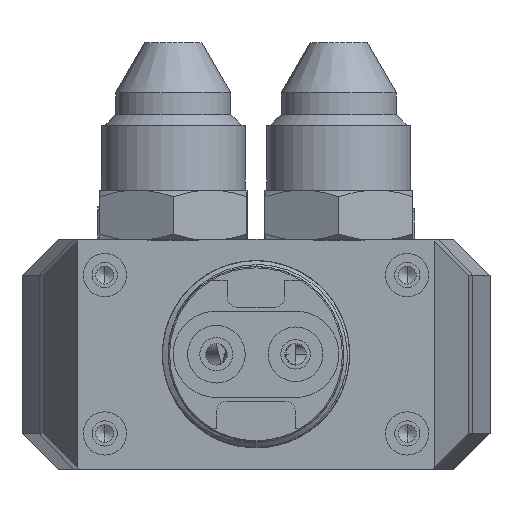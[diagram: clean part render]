
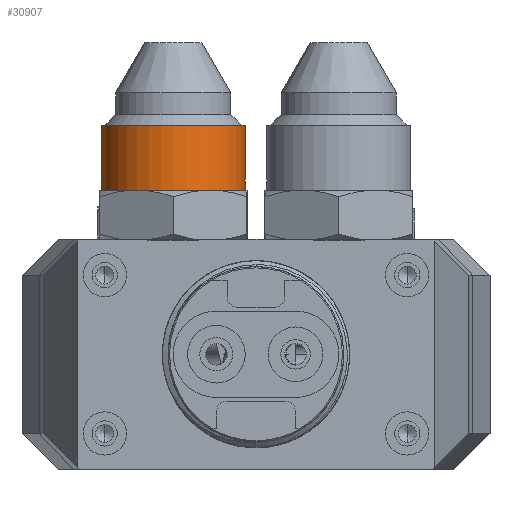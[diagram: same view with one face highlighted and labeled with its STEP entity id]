
A CAD part, front view. The second image highlights one B-rep face of the part: STEP entity #30907.
In plain terms, the highlighted cylindrical face has radius 10 mm (diameter 20 mm), a partial arc.
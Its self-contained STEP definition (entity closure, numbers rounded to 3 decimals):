
#1983 = VERTEX_POINT ( 'NONE', #12012 ) ;
#2076 = EDGE_LOOP ( 'NONE', ( #29214, #47855, #15343, #26965 ) ) ;
#3232 = CARTESIAN_POINT ( 'NONE',  ( -32.035, -112.24, 1009.903 ) ) ;
#3628 = VECTOR ( 'NONE', #8472, 1000. ) ;
#7811 = EDGE_CURVE ( 'NONE', #16940, #1983, #44289, .T. ) ;
#8218 = LINE ( 'NONE', #19573, #3628 ) ;
#8472 = DIRECTION ( 'NONE',  ( 0., 0., 1. ) ) ;
#10037 = EDGE_CURVE ( 'NONE', #42393, #22224, #8218, .T. ) ;
#12012 = CARTESIAN_POINT ( 'NONE',  ( -32.035, -112.24, 1018.903 ) ) ;
#13302 = CARTESIAN_POINT ( 'NONE',  ( -22.035, -112.24, 1018.903 ) ) ;
#13446 = AXIS2_PLACEMENT_3D ( 'NONE', #36542, #32840, #44184 ) ;
#13622 = FACE_OUTER_BOUND ( 'NONE', #2076, .T. ) ;
#15343 = ORIENTED_EDGE ( 'NONE', *, *, #10037, .T. ) ;
#16940 = VERTEX_POINT ( 'NONE', #3232 ) ;
#17686 = CIRCLE ( 'NONE', #38148, 10. ) ;
#19573 = CARTESIAN_POINT ( 'NONE',  ( -12.035, -112.24, 1041.175 ) ) ;
#22224 = VERTEX_POINT ( 'NONE', #38185 ) ;
#22857 = CIRCLE ( 'NONE', #31527, 10. ) ;
#22858 = CARTESIAN_POINT ( 'NONE',  ( -12.035, -112.24, 1009.903 ) ) ;
#25514 = DIRECTION ( 'NONE',  ( 0., 0., 1. ) ) ;
#25753 = EDGE_CURVE ( 'NONE', #16940, #42393, #17686, .T. ) ;
#26965 = ORIENTED_EDGE ( 'NONE', *, *, #39782, .T. ) ;
#29214 = ORIENTED_EDGE ( 'NONE', *, *, #7811, .F. ) ;
#30668 = DIRECTION ( 'NONE',  ( 0., 0., 1. ) ) ;
#30907 = ADVANCED_FACE ( 'NONE', ( #13622 ), #43468, .T. ) ;
#31527 = AXIS2_PLACEMENT_3D ( 'NONE', #13302, #32029, #47089 ) ;
#32029 = DIRECTION ( 'NONE',  ( 0., 0., -1. ) ) ;
#32840 = DIRECTION ( 'NONE',  ( 0., 0., 1. ) ) ;
#36542 = CARTESIAN_POINT ( 'NONE',  ( -22.035, -112.24, 1041.175 ) ) ;
#36736 = VECTOR ( 'NONE', #30668, 1000. ) ;
#38148 = AXIS2_PLACEMENT_3D ( 'NONE', #40072, #25514, #48186 ) ;
#38185 = CARTESIAN_POINT ( 'NONE',  ( -12.035, -112.24, 1018.903 ) ) ;
#39782 = EDGE_CURVE ( 'NONE', #22224, #1983, #22857, .T. ) ;
#40072 = CARTESIAN_POINT ( 'NONE',  ( -22.035, -112.24, 1009.903 ) ) ;
#42292 = CARTESIAN_POINT ( 'NONE',  ( -32.035, -112.24, 1041.175 ) ) ;
#42393 = VERTEX_POINT ( 'NONE', #22858 ) ;
#43468 = CYLINDRICAL_SURFACE ( 'NONE', #13446, 10. ) ;
#44184 = DIRECTION ( 'NONE',  ( 1., 0., 0. ) ) ;
#44289 = LINE ( 'NONE', #42292, #36736 ) ;
#47089 = DIRECTION ( 'NONE',  ( 1., 0., 0. ) ) ;
#47855 = ORIENTED_EDGE ( 'NONE', *, *, #25753, .T. ) ;
#48186 = DIRECTION ( 'NONE',  ( 1., 0., 0. ) ) ;
